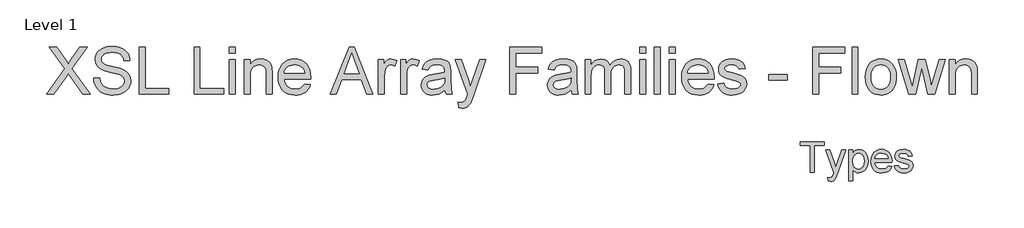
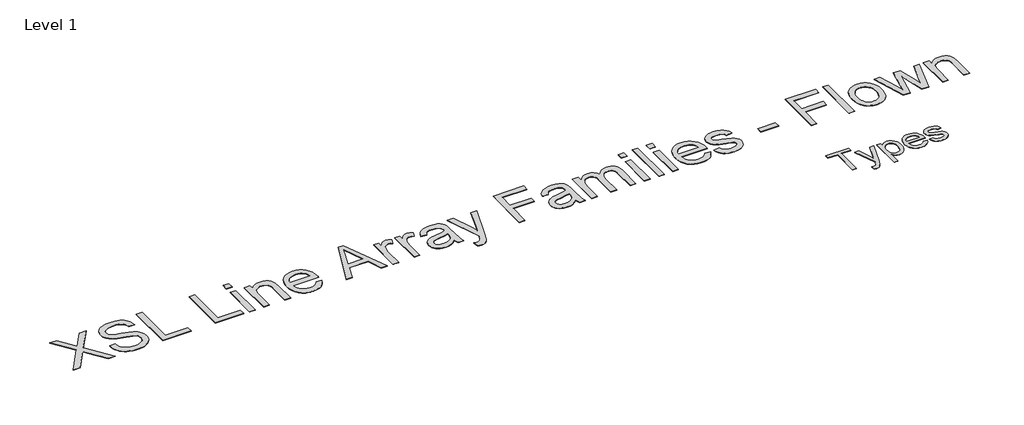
# One storey, part 23 of 52: 2 proxies.
"""IFC4 building model written with IfcOpenShell, lengths in millimetres."""

from ifc_helpers import new_model, si_unit, origin, origin_with_axes, place, context, project, spatial, polyline, outline, extrude, element, save

model = new_model("IFC4")

# Units and contexts
model_context = context("Model", 3, world=origin())
ifc_project = project(units=[si_unit("LENGTHUNIT", "METRE", prefix="MILLI")], contexts=[model_context])

# Site, building, storey
site = spatial("IfcSite", under=ifc_project)
building = spatial("IfcBuilding", under=site)
storey = spatial("IfcBuildingStorey", under=building, Name="Level 1", Elevation=0.0)

# Proxies
placement = place(None, origin())
element("IfcBuildingElementProxy", 1, Name="400mm Arial", ObjectType="400mm Arial", at=placement, inside=storey, context=model_context, shape_type="SweptSolid", body=[
    extrude(outline(polyline([(-11345.9583027, -21567.5695164), (-11345.9583027, -21224.7816376), (-11474.5037572, -21224.7816376), (-11474.5037572, -21175.8119407), (-11168.4431512, -21175.8119407), (-11168.4431512, -21224.7816376), (-11296.9886057, -21224.7816376), (-11296.9886057, -21567.5695164), (-11345.9583027, -21567.5695164)])), origin_with_axes(), (0.0, 0.0, 1.0), 5.0),
    extrude(outline(polyline([(-11119.4734542, -21677.7513346), (-11125.5946663, -21630.5988725), (-11100.7272421, -21634.9028498), (-11087.6479334, -21633.5518791), (-11077.4857648, -21629.4989672), (-11063.2348179, -21614.4350467), (-11049.8446663, -21578.3772816), (-11046.0189088, -21566.5174331), (-11150.0795148, -21279.8725467), (-11098.4317875, -21279.8725467), (-11043.2452345, -21439.5979255), (-11024.0208027, -21503.488077), (-11004.7963709, -21447.0581528), (-10948.0795148, -21279.8725467), (-10896.8143633, -21279.8725467), (-10996.9535679, -21574.4558801), (-11022.9687194, -21638.3460316), (-11036.2871379, -21658.7421017), (-11051.3749694, -21672.8734937), (-11068.9017213, -21681.1227835), (-11089.5369012, -21683.8725467), (-11119.4734542, -21677.7513346)])), origin_with_axes(), (0.0, 0.0, 1.0), 5.0),
    extrude(outline(polyline([(-10856.261333, -21677.7513346), (-10856.261333, -21279.8725467), (-10807.291636, -21279.8725467), (-10807.291636, -21327.8858043), (-10791.3190982, -21304.2019738), (-10773.4336815, -21287.284952), (-10752.5833027, -21277.134739), (-10727.7158785, -21273.7513346), (-10694.5991644, -21278.4857096), (-10665.6429618, -21292.6888346), (-10642.0667307, -21315.4999142), (-10625.0899315, -21346.0581528), (-10614.832119, -21382.1398289), (-10611.4128482, -21421.521221), (-10615.2744722, -21463.4013109), (-10626.8593444, -21500.8578687), (-10645.7968444, -21531.989971), (-10671.7163519, -21554.8966945), (-10701.9039703, -21568.99222), (-10733.6458027, -21573.6907285), (-10756.1579949, -21570.546434), (-10776.2551777, -21561.1135505), (-10793.4591313, -21546.874559), (-10807.291636, -21529.3119407), (-10807.291636, -21677.7513346), (-10856.261333, -21677.7513346)]), holes=[polyline([(-10807.291636, -21426.0164861), (-10801.9953529, -21469.9170543), (-10795.374999, -21486.9177645), (-10786.1065035, -21500.6187589), (-10762.6617828, -21518.6954634), (-10749.2447314, -21523.2146395), (-10734.697886, -21524.7210316), (-10719.9418195, -21523.1608398), (-10706.2796805, -21518.4802645), (-10682.2371853, -21499.7579634), (-10672.6757802, -21485.5608161), (-10665.8462052, -21467.9324426), (-10660.3825451, -21422.3820164), (-10665.7146947, -21378.7205581), (-10672.3798818, -21361.5883375), (-10681.7111436, -21347.5884558), (-10705.1199978, -21328.9378876), (-10718.3846166, -21324.2752456), (-10732.6893633, -21322.7210316), (-10746.9492769, -21324.3738784), (-10760.3663283, -21329.3324189), (-10784.6718444, -21349.1665808), (-10794.5680032, -21363.8867809), (-10801.6366881, -21381.6018318), (-10805.8778991, -21402.3117335), (-10807.291636, -21426.0164861)])]), origin_with_axes(), (0.0, 0.0, 1.0), 5.0),
    extrude(outline(polyline([(-10354.8958027, -21481.8725467), (-10306.8825451, -21487.9937589), (-10314.2441396, -21507.2241684), (-10324.1821427, -21524.1710789), (-10336.6965544, -21538.8344904), (-10351.7873747, -21551.2144028), (-10369.2991822, -21561.0477953), (-10389.0765555, -21568.0716471), (-10435.4279997, -21573.6907285), (-10465.8128837, -21571.2667525), (-10492.8860963, -21563.9948242), (-10516.6476375, -21551.8749437), (-10537.0975072, -21534.9071111), (-10553.5422871, -21513.5635683), (-10565.2885584, -21488.3165571), (-10572.3363212, -21459.1660777), (-10574.6855754, -21426.1121301), (-10572.3124102, -21391.937355), (-10565.1929144, -21361.8154918), (-10553.3270882, -21335.7465406), (-10536.7149315, -21313.7305013), (-10516.3188614, -21296.2396159), (-10493.1012951, -21283.7461263), (-10467.0622326, -21276.2500325), (-10438.2016739, -21273.7513346), (-10410.2706547, -21276.2440548), (-10385.0116881, -21283.7222153), (-10362.4247741, -21296.1858161), (-10342.5099125, -21313.6348573), (-10326.2534317, -21335.6030747), (-10314.6416597, -21361.6242039), (-10307.6745965, -21391.6982451), (-10305.3522421, -21425.8251982), (-10305.6391739, -21439.0240619), (-10525.7158785, -21439.0240619), (-10522.8794379, -21458.5653142), (-10517.2394343, -21475.6796017), (-10508.7958678, -21490.3669241), (-10497.5487383, -21502.6272816), (-10469.1305328, -21519.1975941), (-10434.4715603, -21524.7210316), (-10408.4085868, -21522.1625562), (-10386.4583027, -21514.4871301), (-10368.620708, -21501.2165335), (-10354.8958027, -21481.8725467)]), holes=[polyline([(-10525.7158785, -21390.0543649), (-10354.3219391, -21390.0543649), (-10360.9452819, -21364.1826793), (-10373.9289466, -21345.675577), (-10387.2832317, -21335.6329634), (-10402.4786625, -21328.4596679), (-10438.3929618, -21322.7210316), (-10471.4020764, -21327.2999852), (-10498.6964656, -21341.036846), (-10517.6698321, -21362.4491329), (-10525.7158785, -21390.0543649)])]), origin_with_axes(), (0.0, 0.0, 1.0), 5.0),
    extrude(outline(polyline([(-10274.7461815, -21481.8725467), (-10225.7764845, -21475.7513346), (-10218.0532364, -21496.6973573), (-10203.1088709, -21512.0960316), (-10180.847744, -21521.5647816), (-10151.1742118, -21524.7210316), (-10121.8593444, -21521.8278024), (-10101.2480754, -21513.1481149), (-10089.0534732, -21500.5709369), (-10084.9886057, -21485.9852361), (-10089.0773841, -21473.503702), (-10101.3437194, -21463.9871301), (-10151.7480754, -21450.0231149), (-10225.4895527, -21426.0643081), (-10244.1520764, -21414.0251272), (-10257.6737383, -21398.0884558), (-10265.8871616, -21379.2705107), (-10268.6249694, -21358.5875089), (-10266.4251588, -21339.6141424), (-10259.8257269, -21322.099346), (-10249.4244485, -21306.7365382), (-10235.8190982, -21294.2191376), (-10204.6869959, -21279.7290808), (-10162.5558406, -21273.7513346), (-10130.6824978, -21276.1543886), (-10102.9696663, -21283.3635505), (-10080.6846285, -21294.6734464), (-10065.0946663, -21309.378702), (-10054.7651209, -21328.5672674), (-10048.261333, -21353.3270922), (-10097.23103, -21359.4483043), (-10103.4120196, -21344.0376746), (-10115.6424883, -21332.4288914), (-10134.0419911, -21325.1479965), (-10158.730083, -21322.7210316), (-10186.8494012, -21325.0403971), (-10205.5956133, -21331.9984937), (-10216.1403576, -21342.0411073), (-10219.6552724, -21353.614024), (-10213.8209921, -21367.864971), (-10195.5529997, -21378.6727361), (-10153.3740224, -21389.0979255), (-10081.4976019, -21412.1481149), (-10062.51228, -21423.1710789), (-10048.1178671, -21438.2589104), (-10039.0436483, -21457.4594312), (-10036.0189088, -21480.8204634), (-10039.56969, -21504.9705581), (-10050.2220338, -21527.6859937), (-10067.5694533, -21547.1854018), (-10091.2054618, -21561.6874142), (-10119.7551777, -21570.6899), (-10151.8437194, -21573.6907285), (-10178.1996024, -21572.244114), (-10201.2199031, -21567.9042702), (-10220.9046214, -21560.6711973), (-10237.2537572, -21550.5448952), (-10250.6080423, -21537.5731859), (-10261.308208, -21521.8038914), (-10269.3542544, -21503.2370117), (-10274.7461815, -21481.8725467)])), origin_with_axes(), (0.0, 0.0, 1.0), 5.0),
])
element("IfcBuildingElementProxy", 2, Name="600mm Arial", ObjectType="600mm Arial", at=placement, inside=storey, context=model_context, shape_type="SweptSolid", body=[
    extrude(outline(polyline([(-21099.5693759, -20567.5695164), (-20867.2151077, -20239.1244711), (-21061.8982596, -19964.8316555), (-20971.5464416, -19964.8316555), (-20861.917607, -20119.1949407), (-20835.7611971, -20158.3007968), (-20824.9822547, -20179.3804351), (-20781.719332, -20118.1648711), (-20673.2677199, -19964.8316555), (-20581.5915267, -19964.8316555), (-20776.2746785, -20240.0073879), (-20543.9204104, -20567.5695164), (-20634.2722284, -20567.5695164), (-20789.076972, -20349.1947641), (-20821.3034347, -20303.8717023), (-20856.7672591, -20353.609348), (-21007.8931827, -20567.5695164), (-21099.5693759, -20567.5695164)])), origin_with_axes(), (0.0, 0.0, 1.0), 5.0),
    extrude(outline(polyline([(-20496.831515, -20360.3783767), (-20421.4892824, -20360.3783767), (-20412.8440555, -20402.1881655), (-20397.2090707, -20435.7941858), (-20372.8184944, -20462.4656304), (-20337.9064931, -20483.4716923), (-20295.2321816, -20497.1017203), (-20247.5546751, -20501.6450629), (-20205.5793394, -20498.2053662), (-20168.8279281, -20487.8862763), (-20139.0478806, -20471.5523157), (-20117.9866364, -20450.0680072), (-20105.4602544, -20425.4015194), (-20101.2847938, -20399.521021), (-20104.4117907, -20374.3027103), (-20113.7927816, -20352.505702), (-20132.849069, -20333.9092672), (-20165.0019553, -20318.2926765), (-20274.7043663, -20289.5243045), (-20346.7172669, -20270.4864112), (-20392.7944867, -20252.368223), (-20430.3000562, -20227.0211535), (-20456.8795303, -20196.3030069), (-20472.7168502, -20160.8759708), (-20477.9959568, -20121.4022327), (-20476.3634805, -20098.9660295), (-20471.4660514, -20077.2747874), (-20463.3036696, -20056.3285063), (-20451.8763352, -20036.1271862), (-20437.3128067, -20017.4939631), (-20419.7418429, -20001.2519731), (-20399.1634438, -19987.4012159), (-20375.5776094, -19975.9416918), (-20322.5658139, -19960.5458303), (-20263.8886356, -19955.4138765), (-20200.3186269, -19960.7849536), (-20144.6948692, -19976.898185), (-20120.3594752, -19988.9003351), (-20099.0039254, -20003.4224768), (-20080.6282197, -20020.4646103), (-20065.2323582, -20040.0267353), (-20052.9359026, -20061.538635), (-20043.8584143, -20084.4300922), (-20037.9998935, -20108.7011068), (-20035.3603402, -20134.3516789), (-20110.7025728, -20134.3516789), (-20115.7425562, -20110.3105905), (-20124.5349359, -20089.3964991), (-20137.0797119, -20071.6094046), (-20153.3768843, -20056.9493071), (-20173.7299557, -20045.489783), (-20198.4424287, -20037.3044086), (-20227.5143034, -20032.3931839), (-20260.9455797, -20030.7561091), (-20295.4437138, -20032.3747898), (-20324.9202586, -20037.2308322), (-20349.3752143, -20045.3242361), (-20368.8085807, -20056.6550015), (-20383.615831, -20070.2758324), (-20394.1924383, -20085.2394326), (-20400.5384027, -20101.545802), (-20402.6537242, -20119.1949407), (-20401.1546051, -20134.3792701), (-20396.6572477, -20148.1472537), (-20389.161652, -20160.4988917), (-20378.6678181, -20171.434184), (-20362.1499165, -20181.7900622), (-20336.1406595, -20192.2563049), (-20255.6480789, -20213.5198843), (-20172.5803244, -20233.7166058), (-20122.3276439, -20251.3381534), (-20079.377421, -20278.6717856), (-20062.7721474, -20294.7390318), (-20049.4134324, -20312.4065646), (-20039.1449263, -20331.5824136), (-20031.810279, -20352.1746083), (-20025.9425612, -20397.6080347), (-20027.6302198, -20421.175475), (-20032.6931958, -20444.0531365), (-20041.131489, -20466.2410194), (-20052.9450996, -20487.7391235), (-20067.9270939, -20507.7151158), (-20085.8705382, -20525.3366634), (-20106.7754325, -20540.6037662), (-20130.641777, -20553.5164242), (-20156.7751942, -20563.7849304), (-20184.481307, -20571.1195777), (-20244.6116191, -20576.9872955), (-20283.1518566, -20575.4054029), (-20318.4271414, -20570.6597252), (-20350.4374735, -20562.7502623), (-20379.1828529, -20551.6770142), (-20404.8380236, -20537.4215869), (-20427.5777294, -20519.9655863), (-20447.4019704, -20499.3090122), (-20464.3107466, -20475.4518648), (-20477.9315775, -20449.1666963), (-20487.8919825, -20421.2260587), (-20494.1919617, -20391.6299522), (-20496.831515, -20360.3783767)])), origin_with_axes(), (0.0, 0.0, 1.0), 5.0),
    extrude(outline(polyline([(-19912.9292122, -20567.5695164), (-19912.9292122, -19964.8316555), (-19837.5869796, -19964.8316555), (-19837.5869796, -20492.2272838), (-19536.2180492, -20492.2272838), (-19536.2180492, -20567.5695164), (-19912.9292122, -20567.5695164)])), origin_with_axes(), (0.0, 0.0, 1.0), 5.0),
    extrude(outline(polyline([(-19216.0135606, -20567.5695164), (-19216.0135606, -19964.8316555), (-19140.671328, -19964.8316555), (-19140.671328, -20492.2272838), (-18839.3023975, -20492.2272838), (-18839.3023975, -20567.5695164), (-19216.0135606, -20567.5695164)])), origin_with_axes(), (0.0, 0.0, 1.0), 5.0),
    extrude(outline(polyline([(-18763.9601649, -20040.1738881), (-18763.9601649, -19964.8316555), (-18688.6179323, -19964.8316555), (-18688.6179323, -20040.1738881), (-18763.9601649, -20040.1738881)])), origin_with_axes(), (0.0, 0.0, 1.0), 5.0),
    extrude(outline(polyline([(-18763.9601649, -20567.5695164), (-18763.9601649, -20124.9338998), (-18688.6179323, -20124.9338998), (-18688.6179323, -20567.5695164), (-18763.9601649, -20567.5695164)])), origin_with_axes(), (0.0, 0.0, 1.0), 5.0),
    extrude(outline(polyline([(-18575.6045834, -20567.5695164), (-18575.6045834, -20124.9338998), (-18500.2623508, -20124.9338998), (-18500.2623508, -20186.738075), (-18474.0875468, -20155.57847), (-18442.6520303, -20133.3216093), (-18405.9558013, -20119.9674929), (-18363.9988597, -20115.5161208), (-18326.8611723, -20119.1029702), (-18292.8504819, -20129.8635186), (-18264.4867801, -20146.4549965), (-18244.2900585, -20167.5346349), (-18230.5864542, -20193.0472512), (-18221.702104, -20222.9376633), (-18217.7289785, -20295.7782984), (-18217.7289785, -20567.5695164), (-18293.0712111, -20567.5695164), (-18293.0712111, -20305.9318415), (-18295.2417148, -20266.9731382), (-18301.7532262, -20239.2716239), (-18313.7645733, -20219.4243903), (-18332.4345846, -20204.0285288), (-18356.3653083, -20194.1508972), (-18384.1587931, -20190.8583534), (-18407.0364547, -20192.7069604), (-18428.2862384, -20198.2527815), (-18447.9081443, -20207.4958166), (-18465.9021724, -20220.4360658), (-18480.9347504, -20238.545057), (-18491.6723062, -20263.2943182), (-18498.1148396, -20294.6838495), (-18500.2623508, -20332.7136507), (-18500.2623508, -20567.5695164), (-18575.6045834, -20567.5695164)])), origin_with_axes(), (0.0, 0.0, 1.0), 5.0),
    extrude(outline(polyline([(-17804.2296159, -20435.7206094), (-17730.3589113, -20445.1383884), (-17741.6850782, -20474.7252979), (-17756.9751736, -20500.7989343), (-17776.2291975, -20523.3592977), (-17799.4471499, -20542.406388), (-17826.3899076, -20557.535535), (-17856.8183471, -20568.3420686), (-17890.7324685, -20574.8259888), (-17928.1322719, -20576.9872955), (-17974.8808764, -20573.2578918), (-18016.5343153, -20562.0696806), (-18053.0925886, -20543.422662), (-18084.5556962, -20517.3168359), (-18109.8567804, -20484.4787693), (-18127.9289834, -20445.6350291), (-18138.7723052, -20400.7856154), (-18142.3867459, -20349.9305281), (-18138.7355171, -20297.3509939), (-18127.7818306, -20251.0070596), (-18109.5256866, -20210.8987251), (-18083.967085, -20177.0259903), (-18052.5867508, -20150.1154224), (-18016.8654091, -20130.8935882), (-17976.8030598, -20119.3604876), (-17932.399703, -20115.5161208), (-17889.4264874, -20119.3512906), (-17850.5643532, -20130.8568), (-17815.8133002, -20150.032649), (-17785.1733285, -20176.8788375), (-17760.1619514, -20210.6779959), (-17742.296682, -20250.712754), (-17731.5775204, -20296.9831119), (-17728.0044665, -20349.4890697), (-17728.4459249, -20369.7961558), (-18067.0445132, -20369.7961558), (-18062.6805131, -20399.8613119), (-18054.0030965, -20426.1924657), (-18041.0122636, -20448.7896172), (-18023.7080142, -20467.6527665), (-18003.0468417, -20482.5243962), (-17979.9852391, -20493.1469888), (-17954.5232065, -20499.5205444), (-17926.6607439, -20501.6450629), (-17886.5616064, -20497.7087255), (-17852.7900392, -20485.8997135), (-17825.3460424, -20465.4822628), (-17804.2296159, -20435.7206094)]), holes=[polyline([(-18067.0445132, -20294.4539232), (-17803.3466991, -20294.4539232), (-17813.5370304, -20254.6490913), (-17822.3018189, -20238.9957124), (-17833.5130227, -20226.1750249), (-17854.0592321, -20210.7239811), (-17877.4381329, -20199.6875213), (-17903.6497251, -20193.0656453), (-17932.6940086, -20190.8583534), (-17959.1861108, -20192.6195884), (-17983.480118, -20197.9032936), (-18005.5760304, -20206.7094688), (-18025.4738478, -20219.0381142), (-18042.1710918, -20234.3190126), (-18054.6652841, -20251.9819469), (-18062.9564246, -20272.0269171), (-18067.0445132, -20294.4539232)])]), origin_with_axes(), (0.0, 0.0, 1.0), 5.0),
    extrude(outline(polyline([(-17477.9918626, -20567.5695164), (-17237.3970377, -19964.8316555), (-17173.2384178, -19964.8316555), (-16932.6435929, -20567.5695164), (-17012.2532567, -20567.5695164), (-17081.267919, -20379.2139349), (-17329.5146893, -20379.2139349), (-17398.3821988, -20567.5695164), (-17477.9918626, -20567.5695164)]), holes=[polyline([(-17301.8499633, -20303.8717023), (-17108.7854922, -20303.8717023), (-17163.0848747, -20155.6888346), (-17205.3177277, -20040.1738881), (-17242.8416912, -20142.7393884), (-17301.8499633, -20303.8717023)])]), origin_with_axes(), (0.0, 0.0, 1.0), 5.0),
    extrude(outline(polyline([(-16861.5687914, -20567.5695164), (-16861.5687914, -20124.9338998), (-16795.6443379, -20124.9338998), (-16795.6443379, -20190.416895), (-16771.2905498, -20152.4514731), (-16748.8497481, -20130.0842478), (-16726.33537, -20119.1581525), (-16701.7608527, -20115.5161208), (-16664.2368892, -20121.3286563), (-16626.1243145, -20138.7662628), (-16651.287443, -20206.3093972), (-16677.7749467, -20194.7211143), (-16704.2624503, -20190.8583534), (-16726.7584343, -20194.5739615), (-16746.8631853, -20205.720786), (-16763.1051754, -20223.4526981), (-16774.0128766, -20246.9235694), (-16783.1731383, -20289.0092697), (-16786.2265588, -20334.9209427), (-16786.2265588, -20567.5695164), (-16861.5687914, -20567.5695164)])), origin_with_axes(), (0.0, 0.0, 1.0), 5.0),
    extrude(outline(polyline([(-16579.0354191, -20567.5695164), (-16579.0354191, -20124.9338998), (-16513.1109656, -20124.9338998), (-16513.1109656, -20190.416895), (-16488.7571775, -20152.4514731), (-16466.3163758, -20130.0842478), (-16443.8019977, -20119.1581525), (-16419.2274804, -20115.5161208), (-16381.7035169, -20121.3286563), (-16343.5909422, -20138.7662628), (-16368.7540707, -20206.3093972), (-16395.2415744, -20194.7211143), (-16421.729078, -20190.8583534), (-16444.225062, -20194.5739615), (-16464.3298131, -20205.720786), (-16480.5718031, -20223.4526981), (-16491.4795043, -20246.9235694), (-16500.639766, -20289.0092697), (-16503.6931865, -20334.9209427), (-16503.6931865, -20567.5695164), (-16579.0354191, -20567.5695164)])), origin_with_axes(), (0.0, 0.0, 1.0), 5.0),
    extrude(outline(polyline([(-16013.9686746, -20511.062842), (-16049.9659278, -20541.9281414), (-16087.0300388, -20562.1248629), (-16126.0071362, -20573.2716874), (-16167.7433485, -20576.9872955), (-16201.289588, -20574.7524124), (-16230.706352, -20568.047763), (-16255.9936407, -20556.8733474), (-16277.1514539, -20541.2291656), (-16293.857895, -20522.1084989), (-16305.7910672, -20500.5046287), (-16312.9509706, -20476.4175551), (-16315.337605, -20449.847278), (-16311.7323615, -20418.6140966), (-16300.9166308, -20390.2503948), (-16284.2331823, -20365.9701831), (-16263.0247853, -20346.9874721), (-16238.1007801, -20332.6400743), (-16210.2705072, -20322.265802), (-16145.0818176, -20310.9350366), (-16068.0473278, -20299.0156599), (-16014.410133, -20285.0361441), (-16013.9686746, -20268.2607252), (-16019.1558107, -20234.6363108), (-16025.6397309, -20222.1835053), (-16034.7172191, -20212.6369675), (-16050.4073862, -20203.1088238), (-16069.5188558, -20196.3030069), (-16118.0057028, -20190.8583534), (-16162.8873062, -20194.481991), (-16194.2308522, -20205.352904), (-16215.6047961, -20225.457655), (-16230.5775933, -20256.7828069), (-16305.9198259, -20247.3650278), (-16292.841621, -20206.1622444), (-16273.3254812, -20173.7886288), (-16245.5503905, -20149.0301705), (-16207.6953332, -20130.672859), (-16161.3973841, -20119.3053053), (-16108.2936181, -20115.5161208), (-16057.3603559, -20118.8638469), (-16016.9853069, -20128.9070254), (-15986.5430718, -20144.0085813), (-15965.4082512, -20162.5314397), (-15951.3919472, -20185.4320939), (-15942.3052619, -20213.6670371), (-15938.6264419, -20279.5914906), (-15938.6264419, -20373.327823), (-15934.8004692, -20504.2202369), (-15929.1350865, -20536.5754583), (-15919.7908838, -20567.5695164), (-15995.1331164, -20567.5695164), (-16007.1996458, -20541.3763184), (-16013.9686746, -20511.062842)]), holes=[polyline([(-16013.9686746, -20360.3783767), (-16064.5892371, -20372.9231528), (-16135.5168858, -20383.481366), (-16200.3376933, -20395.6950483), (-16217.2050828, -20404.0459696), (-16229.6946765, -20415.560676), (-16237.4201984, -20429.3562508), (-16239.9953724, -20444.5497772), (-16234.385172, -20466.9537907), (-16217.5545707, -20485.3111023), (-16189.8714506, -20497.5615727), (-16151.7036936, -20501.6450629), (-16111.2366741, -20497.1385085), (-16075.4785442, -20483.6188451), (-16046.4894429, -20463.6980351), (-16026.3295096, -20439.9880405), (-16017.3899771, -20415.560676), (-16014.410133, -20381.7155325), (-16013.9686746, -20360.3783767)])]), origin_with_axes(), (0.0, 0.0, 1.0), 5.0),
    extrude(outline(polyline([(-15835.0308721, -20737.0895398), (-15844.4486512, -20664.5432104), (-15806.1889237, -20671.1650863), (-15786.0657785, -20669.086553), (-15770.4307938, -20662.8509532), (-15758.2538997, -20652.8997452), (-15748.5050268, -20639.6743875), (-15727.9036351, -20584.1977826), (-15722.0175232, -20565.9508356), (-15882.1197675, -20124.9338998), (-15802.6572565, -20124.9338998), (-15717.750092, -20370.6790726), (-15688.1723796, -20468.9771417), (-15658.5946672, -20382.1569909), (-15571.333058, -20124.9338998), (-15492.4591582, -20124.9338998), (-15646.5281378, -20578.1645179), (-15686.5536989, -20676.462587), (-15707.044726, -20707.8429212), (-15730.2580799, -20729.5847471), (-15757.2238301, -20742.2766759), (-15788.9720463, -20746.5073189), (-15810.7874486, -20744.1528741), (-15835.0308721, -20737.0895398)])), origin_with_axes(), (0.0, 0.0, 1.0), 5.0),
    extrude(outline(polyline([(-15185.2041158, -20567.5695164), (-15185.2041158, -19964.8316555), (-14780.2396155, -19964.8316555), (-14780.2396155, -20040.1738881), (-15109.8618832, -20040.1738881), (-15109.8618832, -20219.1116906), (-14827.3285109, -20219.1116906), (-14827.3285109, -20294.4539232), (-15109.8618832, -20294.4539232), (-15109.8618832, -20567.5695164), (-15185.2041158, -20567.5695164)])), origin_with_axes(), (0.0, 0.0, 1.0), 5.0),
    extrude(outline(polyline([(-14403.5284525, -20511.062842), (-14439.5257057, -20541.9281414), (-14476.5898167, -20562.1248629), (-14515.5669141, -20573.2716874), (-14557.3031265, -20576.9872955), (-14590.8493659, -20574.7524124), (-14620.2661299, -20568.047763), (-14645.5534186, -20556.8733474), (-14666.7112318, -20541.2291656), (-14683.4176729, -20522.1084989), (-14695.3508451, -20500.5046287), (-14702.5107485, -20476.4175551), (-14704.8973829, -20449.847278), (-14701.2921394, -20418.6140966), (-14690.4764087, -20390.2503948), (-14673.7929602, -20365.9701831), (-14652.5845632, -20346.9874721), (-14627.660558, -20332.6400743), (-14599.8302851, -20322.265802), (-14534.6415956, -20310.9350366), (-14457.6071058, -20299.0156599), (-14403.9699109, -20285.0361441), (-14403.5284525, -20268.2607252), (-14408.7155886, -20234.6363108), (-14415.1995088, -20222.1835053), (-14424.276997, -20212.6369675), (-14439.9671641, -20203.1088238), (-14459.0786337, -20196.3030069), (-14507.5654807, -20190.8583534), (-14552.4470841, -20194.481991), (-14583.7906301, -20205.352904), (-14605.164574, -20225.457655), (-14620.1373712, -20256.7828069), (-14695.4796038, -20247.3650278), (-14682.4013989, -20206.1622444), (-14662.8852591, -20173.7886288), (-14635.1101684, -20149.0301705), (-14597.2551111, -20130.672859), (-14550.957162, -20119.3053053), (-14497.853396, -20115.5161208), (-14446.9201338, -20118.8638469), (-14406.5450848, -20128.9070254), (-14376.1028497, -20144.0085813), (-14354.9680291, -20162.5314397), (-14340.9517251, -20185.4320939), (-14331.8650398, -20213.6670371), (-14328.1862199, -20279.5914906), (-14328.1862199, -20373.327823), (-14324.3602471, -20504.2202369), (-14318.6948644, -20536.5754583), (-14309.3506617, -20567.5695164), (-14384.6928943, -20567.5695164), (-14396.7594238, -20541.3763184), (-14403.5284525, -20511.062842)]), holes=[polyline([(-14403.5284525, -20360.3783767), (-14454.149015, -20372.9231528), (-14525.0766637, -20383.481366), (-14589.8974712, -20395.6950483), (-14606.7648607, -20404.0459696), (-14619.2544544, -20415.560676), (-14626.9799763, -20429.3562508), (-14629.5551503, -20444.5497772), (-14623.9449499, -20466.9537907), (-14607.1143486, -20485.3111023), (-14579.4312285, -20497.5615727), (-14541.2634715, -20501.6450629), (-14500.796452, -20497.1385085), (-14465.0383221, -20483.6188451), (-14436.0492208, -20463.6980351), (-14415.8892875, -20439.9880405), (-14406.949755, -20415.560676), (-14403.9699109, -20381.7155325), (-14403.5284525, -20360.3783767)])]), origin_with_axes(), (0.0, 0.0, 1.0), 5.0),
    extrude(outline(polyline([(-14224.59065, -20567.5695164), (-14224.59065, -20124.9338998), (-14149.2484174, -20124.9338998), (-14149.2484174, -20197.7745349), (-14126.5868865, -20164.3156674), (-14097.4506325, -20138.1040753), (-14062.8329367, -20121.1631094), (-14023.7270807, -20115.5161208), (-13981.8253214, -20121.273474), (-13963.9922417, -20128.4701655), (-13948.2376952, -20138.5455337), (-13923.1481432, -20166.1918656), (-13906.7406062, -20203.0720356), (-13879.2782152, -20164.7663229), (-13847.9530634, -20137.4050995), (-13812.7651505, -20120.9883654), (-13773.7144767, -20115.5161208), (-13743.5527516, -20117.7923906), (-13717.0790436, -20124.6212001), (-13694.2933525, -20136.0025494), (-13675.1956784, -20151.9364383), (-13660.098721, -20172.6068079), (-13649.3151801, -20198.1975992), (-13642.8450555, -20228.7088121), (-13640.6883473, -20264.1404468), (-13640.6883473, -20567.5695164), (-13716.0305799, -20567.5695164), (-13716.0305799, -20296.5140624), (-13717.7780194, -20258.9349166), (-13723.0203378, -20233.6062412), (-13732.8427871, -20216.2606051), (-13748.3306191, -20202.6305772), (-13768.2514291, -20193.8014093), (-13791.3728125, -20190.8583534), (-13812.7237638, -20192.7437486), (-13832.1893199, -20198.3999343), (-13849.7694807, -20207.8269104), (-13865.4642463, -20221.024677), (-13878.3723058, -20238.3795101), (-13887.5923483, -20260.2776859), (-13893.1243738, -20286.7192043), (-13894.9683823, -20317.7040653), (-13894.9683823, -20567.5695164), (-13970.310615, -20567.5695164), (-13970.310615, -20288.1263529), (-13974.6700166, -20245.5256178), (-13980.1192686, -20228.8053812), (-13987.7482215, -20215.138565), (-13997.8603779, -20204.5159724), (-14010.7592403, -20196.9284063), (-14026.4448089, -20192.3758666), (-14044.9170836, -20190.8583534), (-14073.942973, -20194.9050553), (-14100.687994, -20207.0451612), (-14122.7609138, -20226.9843653), (-14137.7704992, -20254.4283621), (-14146.3789378, -20292.5041486), (-14149.2484174, -20344.3387218), (-14149.2484174, -20567.5695164), (-14224.59065, -20567.5695164)])), origin_with_axes(), (0.0, 0.0, 1.0), 5.0),
    extrude(outline(polyline([(-13527.6749984, -20040.1738881), (-13527.6749984, -19964.8316555), (-13452.3327657, -19964.8316555), (-13452.3327657, -20040.1738881), (-13527.6749984, -20040.1738881)])), origin_with_axes(), (0.0, 0.0, 1.0), 5.0),
    extrude(outline(polyline([(-13527.6749984, -20567.5695164), (-13527.6749984, -20124.9338998), (-13452.3327657, -20124.9338998), (-13452.3327657, -20567.5695164), (-13527.6749984, -20567.5695164)])), origin_with_axes(), (0.0, 0.0, 1.0), 5.0),
    extrude(outline(polyline([(-13339.3194168, -20567.5695164), (-13339.3194168, -19964.8316555), (-13263.9771842, -19964.8316555), (-13263.9771842, -20567.5695164), (-13339.3194168, -20567.5695164)])), origin_with_axes(), (0.0, 0.0, 1.0), 5.0),
    extrude(outline(polyline([(-13150.9638353, -20040.1738881), (-13150.9638353, -19964.8316555), (-13075.6216027, -19964.8316555), (-13075.6216027, -20040.1738881), (-13150.9638353, -20040.1738881)])), origin_with_axes(), (0.0, 0.0, 1.0), 5.0),
    extrude(outline(polyline([(-13150.9638353, -20567.5695164), (-13150.9638353, -20124.9338998), (-13075.6216027, -20124.9338998), (-13075.6216027, -20567.5695164), (-13150.9638353, -20567.5695164)])), origin_with_axes(), (0.0, 0.0, 1.0), 5.0),
    extrude(outline(polyline([(-12652.704461, -20435.7206094), (-12578.8337564, -20445.1383884), (-12590.1599233, -20474.7252979), (-12605.4500187, -20500.7989343), (-12624.7040427, -20523.3592977), (-12647.9219951, -20542.406388), (-12674.8647527, -20557.535535), (-12705.2931922, -20568.3420686), (-12739.2073137, -20574.8259888), (-12776.607117, -20576.9872955), (-12823.3557215, -20573.2578918), (-12865.0091604, -20562.0696806), (-12901.5674337, -20543.422662), (-12933.0305414, -20517.3168359), (-12958.3316256, -20484.4787693), (-12976.4038286, -20445.6350291), (-12987.2471504, -20400.7856154), (-12990.861591, -20349.9305281), (-12987.2103622, -20297.3509939), (-12976.2566758, -20251.0070596), (-12958.0005318, -20210.8987251), (-12932.4419302, -20177.0259903), (-12901.061596, -20150.1154224), (-12865.3402542, -20130.8935882), (-12825.277905, -20119.3604876), (-12780.8745481, -20115.5161208), (-12737.9013326, -20119.3512906), (-12699.0391983, -20130.8568), (-12664.2881453, -20150.032649), (-12633.6481737, -20176.8788375), (-12608.6367965, -20210.6779959), (-12590.7715271, -20250.712754), (-12580.0523655, -20296.9831119), (-12576.4793116, -20349.4890697), (-12576.92077, -20369.7961558), (-12915.5193584, -20369.7961558), (-12911.1553582, -20399.8613119), (-12902.4779417, -20426.1924657), (-12889.4871087, -20448.7896172), (-12872.1828593, -20467.6527665), (-12851.5216868, -20482.5243962), (-12828.4600842, -20493.1469888), (-12802.9980516, -20499.5205444), (-12775.135589, -20501.6450629), (-12735.0364515, -20497.7087255), (-12701.2648844, -20485.8997135), (-12673.8208875, -20465.4822628), (-12652.704461, -20435.7206094)]), holes=[polyline([(-12915.5193584, -20294.4539232), (-12651.8215442, -20294.4539232), (-12662.0118755, -20254.6490913), (-12670.776664, -20238.9957124), (-12681.9878678, -20226.1750249), (-12702.5340773, -20210.7239811), (-12725.9129781, -20199.6875213), (-12752.1245702, -20193.0656453), (-12781.1688537, -20190.8583534), (-12807.6609559, -20192.6195884), (-12831.9549632, -20197.9032936), (-12854.0508755, -20206.7094688), (-12873.9486929, -20219.0381142), (-12890.645937, -20234.3190126), (-12903.1401292, -20251.9819469), (-12911.4312697, -20272.0269171), (-12915.5193584, -20294.4539232)])]), origin_with_axes(), (0.0, 0.0, 1.0), 5.0),
    extrude(outline(polyline([(-12529.3904162, -20435.7206094), (-12454.0481836, -20426.3028303), (-12449.4956439, -20443.4829195), (-12442.1655952, -20458.5292931), (-12432.0580374, -20471.4419511), (-12419.1729705, -20482.2208935), (-12403.4736063, -20490.7189676), (-12384.9231567, -20496.7890206), (-12339.2690011, -20501.6450629), (-12294.1666685, -20497.1936908), (-12276.6370915, -20491.6294756), (-12262.4552405, -20483.8395743), (-12243.6932588, -20464.4889814), (-12239.0027633, -20453.6548566), (-12237.4392649, -20442.0481797), (-12239.0119604, -20431.8762425), (-12243.730047, -20422.8447395), (-12262.6023933, -20408.2030361), (-12290.8189424, -20398.6381042), (-12340.1519179, -20386.7187276), (-12408.9090628, -20366.8347058), (-12453.6067252, -20349.8569517), (-12482.319915, -20331.3340932), (-12503.1236418, -20306.8147582), (-12515.7603883, -20277.8624452), (-12519.9726372, -20246.0406526), (-12516.5881228, -20216.8492163), (-12506.4345797, -20189.9018602), (-12490.431713, -20166.265442), (-12469.4992274, -20147.0068195), (-12448.6955006, -20134.8851078), (-12421.6009917, -20124.7131706), (-12390.2758398, -20117.8153832), (-12356.7801841, -20115.5161208), (-12307.7415141, -20119.2133348), (-12265.1039909, -20130.304977), (-12230.817389, -20147.7057953), (-12206.8314829, -20170.330538), (-12190.9389807, -20199.8530681), (-12180.9325904, -20237.9472487), (-12256.274823, -20247.3650278), (-12265.7845726, -20223.6550332), (-12284.6017367, -20205.7943624), (-12312.9102562, -20194.5923556), (-12350.8940722, -20190.8583534), (-12394.1569948, -20194.4268087), (-12422.9989432, -20205.1321748), (-12439.2225392, -20220.5832186), (-12444.6304046, -20238.3887071), (-12442.3863244, -20249.97699), (-12435.6540839, -20260.3144741), (-12424.1393774, -20269.5483121), (-12407.5478994, -20276.9427402), (-12342.6535155, -20292.9823952), (-12232.0681877, -20328.4462196), (-12202.8583573, -20345.4055795), (-12180.7118612, -20368.6189334), (-12166.7507395, -20398.1598576), (-12162.0970323, -20434.1019286), (-12167.5600799, -20471.2580101), (-12183.9492228, -20506.2067996), (-12210.6390615, -20536.2075763), (-12247.0041967, -20558.5196193), (-12290.929307, -20572.3703765), (-12340.2990707, -20576.9872955), (-12380.8488636, -20574.7616094), (-12416.2667027, -20568.0845512), (-12446.552588, -20556.9561209), (-12471.7065194, -20541.3763184), (-12492.2527288, -20521.4187201), (-12508.7154481, -20497.1569026), (-12521.0946773, -20468.5908656), (-12529.3904162, -20435.7206094)])), origin_with_axes(), (0.0, 0.0, 1.0), 5.0),
    extrude(outline(polyline([(-11879.56366, -20388.631714), (-11879.56366, -20313.2894814), (-11644.119183, -20313.2894814), (-11644.119183, -20388.631714), (-11879.56366, -20388.631714)])), origin_with_axes(), (0.0, 0.0, 1.0), 5.0),
    extrude(outline(polyline([(-11314.4969154, -20567.5695164), (-11314.4969154, -19964.8316555), (-10909.5324151, -19964.8316555), (-10909.5324151, -20040.1738881), (-11239.1546828, -20040.1738881), (-11239.1546828, -20219.1116906), (-10956.6213105, -20219.1116906), (-10956.6213105, -20294.4539232), (-11239.1546828, -20294.4539232), (-11239.1546828, -20567.5695164), (-11314.4969154, -20567.5695164)])), origin_with_axes(), (0.0, 0.0, 1.0), 5.0),
    extrude(outline(polyline([(-10815.3546243, -20567.5695164), (-10815.3546243, -19964.8316555), (-10740.0123917, -19964.8316555), (-10740.0123917, -20567.5695164), (-10815.3546243, -20567.5695164)])), origin_with_axes(), (0.0, 0.0, 1.0), 5.0),
    extrude(outline(polyline([(-10645.8346009, -20346.2517081), (-10641.7603078, -20288.9264962), (-10629.5374286, -20239.5291413), (-10609.1659631, -20198.0596434), (-10580.6459114, -20164.5180025), (-10551.9327217, -20143.0796792), (-10520.2396878, -20127.7665912), (-10485.5668097, -20118.5787384), (-10447.9140875, -20115.5161208), (-10406.3480206, -20119.2455245), (-10368.7642763, -20130.4337357), (-10335.1628545, -20149.0807543), (-10305.5437554, -20175.1865804), (-10281.3693098, -20207.8682971), (-10264.1018486, -20246.2429877), (-10253.741372, -20290.3106522), (-10250.2878797, -20340.0712906), (-10251.81459, -20380.4003543), (-10256.3947208, -20416.1860754), (-10264.0282722, -20447.4284539), (-10274.7152442, -20474.1274897), (-10288.3222795, -20497.1890922), (-10304.7160209, -20517.519171), (-10323.8964684, -20535.1177259), (-10345.8636221, -20549.9847571), (-10369.7621562, -20561.7983676), (-10394.7367451, -20570.2366609), (-10420.7873889, -20575.2996369), (-10447.9140875, -20576.9872955), (-10490.0871598, -20573.2716874), (-10528.020392, -20562.1248629), (-10561.7137842, -20543.5468221), (-10591.1673365, -20517.5375651), (-10615.0842647, -20484.5385501), (-10632.1677848, -20444.9912356), (-10642.4178969, -20398.8956216), (-10645.8346009, -20346.2517081)]), holes=[polyline([(-10570.4923683, -20346.1045553), (-10568.3126675, -20382.649033), (-10561.773565, -20414.2914831), (-10550.8750609, -20441.0319057), (-10535.6171552, -20462.8703006), (-10517.0575085, -20479.8342591), (-10496.2537817, -20491.9513723), (-10473.2059747, -20499.2216402), (-10447.9140875, -20501.6450629), (-10422.7509591, -20499.2078447), (-10399.7951226, -20491.89619), (-10379.046578, -20479.7100989), (-10360.5053255, -20462.6495714), (-10345.2474197, -20440.5950458), (-10334.3489156, -20413.4269604), (-10327.8098132, -20381.1453154), (-10325.6301123, -20343.7501106), (-10327.8236087, -20308.3644612), (-10334.4040979, -20277.5497455), (-10345.3715799, -20251.3059637), (-10360.7260547, -20229.6331157), (-10379.3362851, -20212.6691572), (-10400.0710341, -20200.5520439), (-10422.9303015, -20193.281776), (-10447.9140875, -20190.8583534), (-10473.2059747, -20193.272579), (-10496.2537817, -20200.5152557), (-10517.0575085, -20212.5863837), (-10535.6171552, -20229.4859629), (-10550.8750609, -20251.2599784), (-10561.773565, -20277.9544157), (-10568.3126675, -20309.5692747), (-10570.4923683, -20346.1045553)])]), origin_with_axes(), (0.0, 0.0, 1.0), 5.0),
    extrude(outline(polyline([(-10092.0986218, -20567.5695164), (-10226.743432, -20124.9338998), (-10148.4581435, -20124.9338998), (-10072.0858413, -20383.1870604), (-10049.2771576, -20475.4518648), (-10030.5887522, -20386.5715748), (-9969.8146466, -20124.9338998), (-9880.0514398, -20124.9338998), (-9819.5716398, -20385.8358108), (-9802.9433736, -20466.3283914), (-9779.1046203, -20381.4212269), (-9702.5851653, -20124.9338998), (-9624.0055711, -20124.9338998), (-9759.680451, -20567.5695164), (-9850.768033, -20567.5695164), (-9908.5990826, -20307.9919806), (-9925.3745016, -20227.0579417), (-9999.9809702, -20567.5695164), (-10092.0986218, -20567.5695164)])), origin_with_axes(), (0.0, 0.0, 1.0), 5.0),
    extrude(outline(polyline([(-9572.2077862, -20567.5695164), (-9572.2077862, -20124.9338998), (-9496.8655536, -20124.9338998), (-9496.8655536, -20186.738075), (-9470.6907496, -20155.57847), (-9439.2552332, -20133.3216093), (-9402.5590041, -20119.9674929), (-9360.6020626, -20115.5161208), (-9323.4643752, -20119.1029702), (-9289.4536847, -20129.8635186), (-9261.0899829, -20146.4549965), (-9240.8932614, -20167.5346349), (-9227.189657, -20193.0472512), (-9218.3053069, -20222.9376633), (-9214.3321813, -20295.7782984), (-9214.3321813, -20567.5695164), (-9289.6744139, -20567.5695164), (-9289.6744139, -20305.9318415), (-9291.8449177, -20266.9731382), (-9298.356429, -20239.2716239), (-9310.3677761, -20219.4243903), (-9329.0377874, -20204.0285288), (-9352.9685112, -20194.1508972), (-9380.7619959, -20190.8583534), (-9403.6396575, -20192.7069604), (-9424.8894412, -20198.2527815), (-9444.5113472, -20207.4958166), (-9462.5053753, -20220.4360658), (-9477.5379533, -20238.545057), (-9488.275509, -20263.2943182), (-9494.7180425, -20294.6838495), (-9496.8655536, -20332.7136507), (-9496.8655536, -20567.5695164), (-9572.2077862, -20567.5695164)])), origin_with_axes(), (0.0, 0.0, 1.0), 5.0),
])

save(model, "model.ifc")
